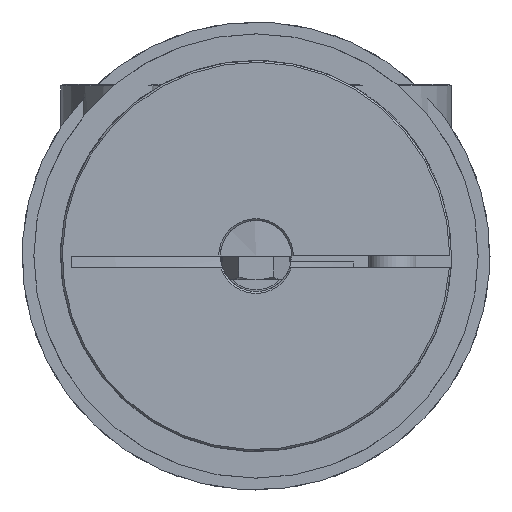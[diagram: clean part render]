
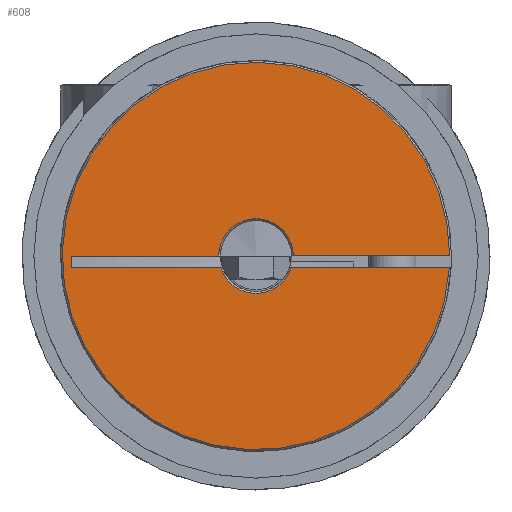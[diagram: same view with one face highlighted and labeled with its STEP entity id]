
A CAD part, left-side view. The second image highlights one B-rep face of the part: STEP entity #608.
In plain terms, the highlighted planar face has unit normal (-1, 0, 0) as drawn and (0, 0, 1) by its records, which use the part's own axes.
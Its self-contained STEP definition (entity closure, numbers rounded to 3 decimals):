
#608 = ADVANCED_FACE( 'NONE', ( #1232 ), #1233, .T. );
#1232 = FACE_OUTER_BOUND( '', #1832, .T. );
#1233 = PLANE( '', #1833 );
#1832 = EDGE_LOOP( '', ( #3004, #3005, #3006, #3007, #3008, #3009, #3010, #3011 ) );
#1833 = AXIS2_PLACEMENT_3D( '', #3012, #3013, #3014 );
#3004 = ORIENTED_EDGE( '', *, *, #3767, .F. );
#3005 = ORIENTED_EDGE( '', *, *, #3808, .T. );
#3006 = ORIENTED_EDGE( '', *, *, #3809, .F. );
#3007 = ORIENTED_EDGE( '', *, *, #3801, .T. );
#3008 = ORIENTED_EDGE( '', *, *, #3803, .T. );
#3009 = ORIENTED_EDGE( '', *, *, #3762, .T. );
#3010 = ORIENTED_EDGE( '', *, *, #3805, .T. );
#3011 = ORIENTED_EDGE( '', *, *, #3807, .F. );
#3012 = CARTESIAN_POINT( '', ( 0., 0., 29. ) );
#3013 = DIRECTION( '', ( 0., 0., 1. ) );
#3014 = DIRECTION( '', ( 1., 0., 0. ) );
#3762 = EDGE_CURVE( 'NONE', #4301, #4298, #4302, .F. );
#3767 = EDGE_CURVE( 'NONE', #4309, #4311, #4312, .F. );
#3801 = EDGE_CURVE( 'NONE', #4370, #4368, #4371, .T. );
#3803 = EDGE_CURVE( 'NONE', #4368, #4301, #4373, .T. );
#3805 = EDGE_CURVE( 'NONE', #4298, #4376, #4377, .T. );
#3807 = EDGE_CURVE( 'NONE', #4311, #4376, #4379, .F. );
#3808 = EDGE_CURVE( 'NONE', #4309, #4380, #4381, .F. );
#3809 = EDGE_CURVE( 'NONE', #4370, #4380, #4382, .F. );
#4298 = VERTEX_POINT( 'NONE', #4982 );
#4301 = VERTEX_POINT( 'NONE', #4988 );
#4302 = CIRCLE( '', #4989, 6.3 );
#4309 = VERTEX_POINT( 'NONE', #5000 );
#4311 = VERTEX_POINT( 'NONE', #5003 );
#4312 = LINE( '', #5004, #5005 );
#4368 = VERTEX_POINT( 'NONE', #5237 );
#4370 = VERTEX_POINT( 'NONE', #5242 );
#4371 = CIRCLE( '', #5243, 32.7 );
#4373 = LINE( '', #5246, #5247 );
#4376 = VERTEX_POINT( 'NONE', #5250 );
#4377 = LINE( '', #5251, #5252 );
#4379 = LINE( '', #5254, #5255 );
#4380 = VERTEX_POINT( 'NONE', #5256 );
#4381 = CIRCLE( '', #5257, 6.3 );
#4382 = LINE( '', #5258, #5259 );
#4982 = CARTESIAN_POINT( '', ( -5.974, -2., 29. ) );
#4988 = CARTESIAN_POINT( '', ( 5.974, -2., 29. ) );
#4989 = AXIS2_PLACEMENT_3D( '', #5894, #5895, #5896 );
#5000 = CARTESIAN_POINT( '', ( -6.3, 0., 29. ) );
#5003 = CARTESIAN_POINT( '', ( -31.103, 0., 29. ) );
#5004 = CARTESIAN_POINT( '', ( 16.5, 0., 29. ) );
#5005 = VECTOR( '', #5902, 1000. );
#5237 = CARTESIAN_POINT( '', ( 32.639, -2., 29. ) );
#5242 = CARTESIAN_POINT( '', ( 32.7, 0., 29. ) );
#5243 = AXIS2_PLACEMENT_3D( '', #5963, #5964, #5965 );
#5246 = CARTESIAN_POINT( '', ( 0., -2., 29. ) );
#5247 = VECTOR( '', #5967, 1000. );
#5250 = CARTESIAN_POINT( '', ( -31.103, -2., 29. ) );
#5251 = CARTESIAN_POINT( '', ( 0., -2., 29. ) );
#5252 = VECTOR( '', #5971, 1000. );
#5254 = CARTESIAN_POINT( '', ( -31.103, -2., 29. ) );
#5255 = VECTOR( '', #5975, 1000. );
#5256 = CARTESIAN_POINT( '', ( 6.3, 0., 29. ) );
#5257 = AXIS2_PLACEMENT_3D( '', #5976, #5977, #5978 );
#5258 = CARTESIAN_POINT( '', ( 16.5, 0., 29. ) );
#5259 = VECTOR( '', #5979, 1000. );
#5894 = CARTESIAN_POINT( '', ( 0., 0., 29. ) );
#5895 = DIRECTION( '', ( 0., 0., 1. ) );
#5896 = DIRECTION( '', ( 1., 0., 0. ) );
#5902 = DIRECTION( '', ( 1., 0., 0. ) );
#5963 = CARTESIAN_POINT( '', ( 0., 0., 29. ) );
#5964 = DIRECTION( '', ( 0., 0., 1. ) );
#5965 = DIRECTION( '', ( 1., 0., 0. ) );
#5967 = DIRECTION( '', ( -1., 0., 0. ) );
#5971 = DIRECTION( '', ( -1., 0., 0. ) );
#5975 = DIRECTION( '', ( 0., 1., 0. ) );
#5976 = CARTESIAN_POINT( '', ( 0., 0., 29. ) );
#5977 = DIRECTION( '', ( 0., 0., 1. ) );
#5978 = DIRECTION( '', ( 1., 0., 0. ) );
#5979 = DIRECTION( '', ( 1., 0., 0. ) );
